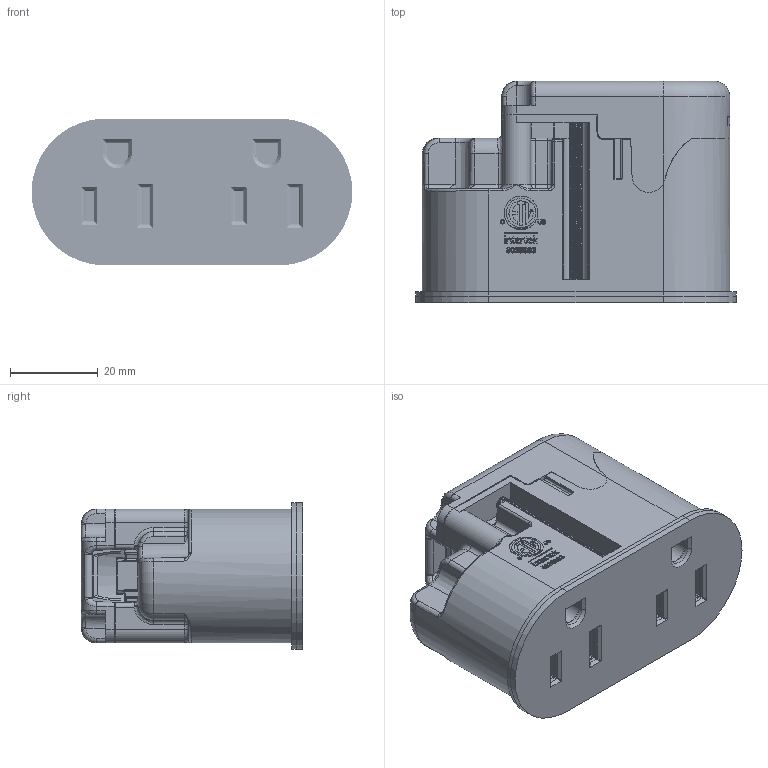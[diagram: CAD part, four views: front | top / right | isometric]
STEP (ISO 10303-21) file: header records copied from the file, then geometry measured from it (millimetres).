
FILE_DESCRIPTION((''),'2;1');
FILE_NAME('A1560825_ASM','2026-07-07T15:26:56',('FDR'),(''),'CREO PARAMETRIC BY PTC INC, 2023494','CREO PARAMETRIC BY PTC INC, 2023494','');
FILE_SCHEMA(('AP242_MANAGED_MODEL_BASED_3D_ENGINEERING_MIM_LF { 1 0 10303 442 1 1 4 }'));
Length unit declared in the file: millimetre
Products named in the file (5): A1560823; A1560856; A1400703; A1450278; A1560825_ASM
Assembly tree (5 placements, depth 2):
  A1560825_ASM
    A1560823
    A1560856
    A1400703  x2
    A1450278
Bounding box: 73 x 50.4 x 33.4 mm (x, y, z)
Volume: 72159.7 mm3; surface area: 28602.4 mm2
Topology: 5 solids, 6 shells, 2866 faces, 9840 edges, 7244 vertices
Faces by surface type: plane 888, cylinder 723, extrusion 673, bspline 325, torus 127, sphere 77, cone 53
Entity records: 177350 total; most frequent: CARTESIAN_POINT 58562, ORIENTED_EDGE 13163, PRESENTATION_STYLE_ASSIGNMENT 12341, STYLED_ITEM 11614, DIRECTION 10904, CURVE_STYLE 9806, EDGE_CURVE 6587, VECTOR 5194
